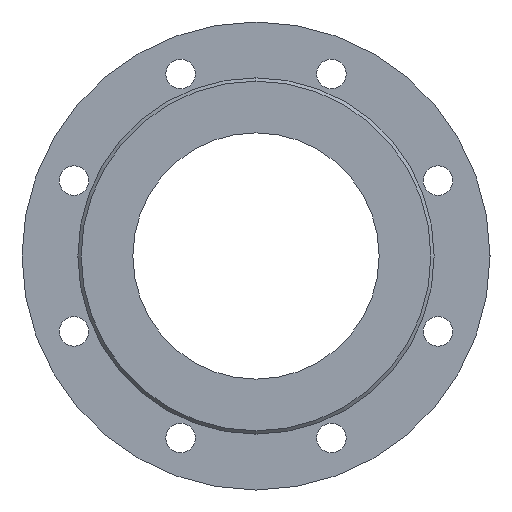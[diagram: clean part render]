
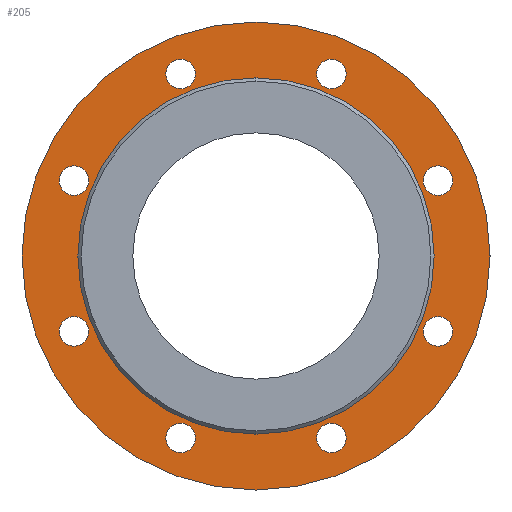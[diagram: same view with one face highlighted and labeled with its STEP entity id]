
A CAD part, left-side view. The second image highlights one B-rep face of the part: STEP entity #205.
In plain terms, the highlighted planar face has unit normal (-1, 0, 0).
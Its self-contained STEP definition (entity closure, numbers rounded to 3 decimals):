
#205=ADVANCED_FACE('',(#423,#424,#425,#426,#427,#428,#429,#430,#431,#432),#433,.F.);
#423=FACE_BOUND('',#683,.T.);
#424=FACE_BOUND('',#684,.T.);
#425=FACE_BOUND('',#685,.T.);
#426=FACE_BOUND('',#686,.T.);
#427=FACE_BOUND('',#687,.T.);
#428=FACE_BOUND('',#688,.T.);
#429=FACE_BOUND('',#689,.T.);
#430=FACE_BOUND('',#690,.T.);
#431=FACE_BOUND('',#691,.T.);
#432=FACE_OUTER_BOUND('',#692,.T.);
#433=PLANE('',#693);
#683=EDGE_LOOP('',(#1103,#1104));
#684=EDGE_LOOP('',(#1105,#1106));
#685=EDGE_LOOP('',(#1107,#1108));
#686=EDGE_LOOP('',(#1109,#1110));
#687=EDGE_LOOP('',(#1111,#1112));
#688=EDGE_LOOP('',(#1113,#1114));
#689=EDGE_LOOP('',(#1115,#1116));
#690=EDGE_LOOP('',(#1117,#1118));
#691=EDGE_LOOP('',(#1119,#1120));
#692=EDGE_LOOP('',(#1121,#1122));
#693=AXIS2_PLACEMENT_3D('',#1123,#1124,#1125);
#1103=ORIENTED_EDGE('',*,*,#1437,.T.);
#1104=ORIENTED_EDGE('',*,*,#1452,.T.);
#1105=ORIENTED_EDGE('',*,*,#1378,.T.);
#1106=ORIENTED_EDGE('',*,*,#1368,.T.);
#1107=ORIENTED_EDGE('',*,*,#1513,.T.);
#1108=ORIENTED_EDGE('',*,*,#1487,.T.);
#1109=ORIENTED_EDGE('',*,*,#1360,.T.);
#1110=ORIENTED_EDGE('',*,*,#1508,.T.);
#1111=ORIENTED_EDGE('',*,*,#1391,.T.);
#1112=ORIENTED_EDGE('',*,*,#1514,.T.);
#1113=ORIENTED_EDGE('',*,*,#1444,.T.);
#1114=ORIENTED_EDGE('',*,*,#1511,.T.);
#1115=ORIENTED_EDGE('',*,*,#1430,.T.);
#1116=ORIENTED_EDGE('',*,*,#1515,.T.);
#1117=ORIENTED_EDGE('',*,*,#1516,.T.);
#1118=ORIENTED_EDGE('',*,*,#1384,.T.);
#1119=ORIENTED_EDGE('',*,*,#1425,.T.);
#1120=ORIENTED_EDGE('',*,*,#1517,.T.);
#1121=ORIENTED_EDGE('',*,*,#1447,.F.);
#1122=ORIENTED_EDGE('',*,*,#1498,.F.);
#1123=CARTESIAN_POINT('',(2.0,0.0,0.));
#1124=DIRECTION('',(1.0,0.0,0.));
#1125=DIRECTION('',(0.,0.0,-1.0));
#1360=EDGE_CURVE('',#1585,#1589,#1591,.T.);
#1368=EDGE_CURVE('',#1605,#1603,#1606,.T.);
#1378=EDGE_CURVE('',#1603,#1605,#1621,.T.);
#1384=EDGE_CURVE('',#1629,#1627,#1630,.T.);
#1391=EDGE_CURVE('',#1636,#1640,#1642,.T.);
#1425=EDGE_CURVE('',#1690,#1694,#1696,.T.);
#1430=EDGE_CURVE('',#1699,#1703,#1705,.T.);
#1437=EDGE_CURVE('',#1716,#1714,#1717,.T.);
#1444=EDGE_CURVE('',#1723,#1727,#1729,.T.);
#1447=EDGE_CURVE('',#1731,#1734,#1735,.T.);
#1452=EDGE_CURVE('',#1714,#1716,#1741,.T.);
#1487=EDGE_CURVE('',#1798,#1796,#1799,.T.);
#1498=EDGE_CURVE('',#1734,#1731,#1813,.T.);
#1508=EDGE_CURVE('',#1589,#1585,#1823,.T.);
#1511=EDGE_CURVE('',#1727,#1723,#1826,.T.);
#1513=EDGE_CURVE('',#1796,#1798,#1828,.T.);
#1514=EDGE_CURVE('',#1640,#1636,#1829,.T.);
#1515=EDGE_CURVE('',#1703,#1699,#1830,.T.);
#1516=EDGE_CURVE('',#1627,#1629,#1831,.T.);
#1517=EDGE_CURVE('',#1694,#1690,#1832,.T.);
#1585=VERTEX_POINT('',#1914);
#1589=VERTEX_POINT('',#1919);
#1591=CIRCLE('',#1922,9.0);
#1603=VERTEX_POINT('',#1936);
#1605=VERTEX_POINT('',#1939);
#1606=CIRCLE('',#1940,9.0);
#1621=CIRCLE('',#1956,9.0);
#1627=VERTEX_POINT('',#1962);
#1629=VERTEX_POINT('',#1965);
#1630=CIRCLE('',#1966,9.0);
#1636=VERTEX_POINT('',#1973);
#1640=VERTEX_POINT('',#1978);
#1642=CIRCLE('',#1981,9.0);
#1690=VERTEX_POINT('',#2037);
#1694=VERTEX_POINT('',#2042);
#1696=CIRCLE('',#2045,9.0);
#1699=VERTEX_POINT('',#2048);
#1703=VERTEX_POINT('',#2053);
#1705=CIRCLE('',#2056,9.0);
#1714=VERTEX_POINT('',#2067);
#1716=VERTEX_POINT('',#2070);
#1717=CIRCLE('',#2071,75.0);
#1723=VERTEX_POINT('',#2078);
#1727=VERTEX_POINT('',#2083);
#1729=CIRCLE('',#2086,9.0);
#1731=VERTEX_POINT('',#2088);
#1734=VERTEX_POINT('',#2092);
#1735=CIRCLE('',#2093,142.5);
#1741=CIRCLE('',#2100,75.0);
#1796=VERTEX_POINT('',#2159);
#1798=VERTEX_POINT('',#2162);
#1799=CIRCLE('',#2163,9.0);
#1813=CIRCLE('',#2180,142.5);
#1823=CIRCLE('',#2190,9.0);
#1826=CIRCLE('',#2193,9.0);
#1828=CIRCLE('',#2195,9.0);
#1829=CIRCLE('',#2196,9.0);
#1830=CIRCLE('',#2197,9.0);
#1831=CIRCLE('',#2198,9.0);
#1832=CIRCLE('',#2199,9.0);
#1914=CARTESIAN_POINT('',(2.0,-110.866,36.922));
#1919=CARTESIAN_POINT('',(2.0,-110.866,54.922));
#1922=AXIS2_PLACEMENT_3D('',#2293,#2294,#2295);
#1936=CARTESIAN_POINT('',(2.0,110.866,-54.922));
#1939=CARTESIAN_POINT('',(2.0,110.866,-36.922));
#1940=AXIS2_PLACEMENT_3D('',#2305,#2306,#2307);
#1956=AXIS2_PLACEMENT_3D('',#2327,#2328,#2329);
#1962=CARTESIAN_POINT('',(2.0,-110.866,-54.922));
#1965=CARTESIAN_POINT('',(2.0,-110.866,-36.922));
#1966=AXIS2_PLACEMENT_3D('',#2337,#2338,#2339);
#1973=CARTESIAN_POINT('',(2.0,-45.922,101.866));
#1978=CARTESIAN_POINT('',(2.,-45.922,119.866));
#1981=AXIS2_PLACEMENT_3D('',#2349,#2350,#2351);
#2037=CARTESIAN_POINT('',(2.0,-45.922,-119.866));
#2042=CARTESIAN_POINT('',(2.,-45.922,-101.866));
#2045=AXIS2_PLACEMENT_3D('',#2401,#2402,#2403);
#2048=CARTESIAN_POINT('',(2.0,45.922,101.866));
#2053=CARTESIAN_POINT('',(2.,45.922,119.866));
#2056=AXIS2_PLACEMENT_3D('',#2409,#2410,#2411);
#2067=CARTESIAN_POINT('',(2.0,0.,-75.0));
#2070=CARTESIAN_POINT('',(2.0,0.,75.0));
#2071=AXIS2_PLACEMENT_3D('',#2418,#2419,#2420);
#2078=CARTESIAN_POINT('',(2.0,110.866,36.922));
#2083=CARTESIAN_POINT('',(2.0,110.866,54.922));
#2086=AXIS2_PLACEMENT_3D('',#2430,#2431,#2432);
#2088=CARTESIAN_POINT('',(2.,0.0,-142.5));
#2092=CARTESIAN_POINT('',(2.,0.,142.5));
#2093=AXIS2_PLACEMENT_3D('',#2434,#2435,#2436);
#2100=AXIS2_PLACEMENT_3D('',#2444,#2445,#2446);
#2159=CARTESIAN_POINT('',(2.0,45.922,-119.866));
#2162=CARTESIAN_POINT('',(2.,45.922,-101.866));
#2163=AXIS2_PLACEMENT_3D('',#2518,#2519,#2520);
#2180=AXIS2_PLACEMENT_3D('',#2536,#2537,#2538);
#2190=AXIS2_PLACEMENT_3D('',#2560,#2561,#2562);
#2193=AXIS2_PLACEMENT_3D('',#2563,#2564,#2565);
#2195=AXIS2_PLACEMENT_3D('',#2566,#2567,#2568);
#2196=AXIS2_PLACEMENT_3D('',#2569,#2570,#2571);
#2197=AXIS2_PLACEMENT_3D('',#2572,#2573,#2574);
#2198=AXIS2_PLACEMENT_3D('',#2575,#2576,#2577);
#2199=AXIS2_PLACEMENT_3D('',#2578,#2579,#2580);
#2293=CARTESIAN_POINT('',(2.0,-110.866,45.922));
#2294=DIRECTION('',(1.0,0.0,0.));
#2295=DIRECTION('',(0.,0.0,-1.0));
#2305=CARTESIAN_POINT('',(2.0,110.866,-45.922));
#2306=DIRECTION('',(1.0,0.0,0.));
#2307=DIRECTION('',(0.,0.0,-1.0));
#2327=CARTESIAN_POINT('',(2.0,110.866,-45.922));
#2328=DIRECTION('',(1.0,0.0,0.));
#2329=DIRECTION('',(0.,0.0,-1.0));
#2337=CARTESIAN_POINT('',(2.0,-110.866,-45.922));
#2338=DIRECTION('',(1.0,0.0,0.));
#2339=DIRECTION('',(0.,0.0,-1.0));
#2349=CARTESIAN_POINT('',(2.,-45.922,110.866));
#2350=DIRECTION('',(1.0,0.0,0.));
#2351=DIRECTION('',(0.,0.0,-1.0));
#2401=CARTESIAN_POINT('',(2.,-45.922,-110.866));
#2402=DIRECTION('',(1.0,0.0,0.));
#2403=DIRECTION('',(0.,0.0,-1.0));
#2409=CARTESIAN_POINT('',(2.,45.922,110.866));
#2410=DIRECTION('',(1.0,0.0,0.));
#2411=DIRECTION('',(0.,0.0,-1.0));
#2418=CARTESIAN_POINT('',(2.0,0.0,0.));
#2419=DIRECTION('',(1.0,0.0,0.));
#2420=DIRECTION('',(0.,0.0,-1.0));
#2430=CARTESIAN_POINT('',(2.0,110.866,45.922));
#2431=DIRECTION('',(1.0,0.0,0.));
#2432=DIRECTION('',(0.,0.0,-1.0));
#2434=CARTESIAN_POINT('',(2.0,0.0,0.));
#2435=DIRECTION('',(1.0,0.0,0.));
#2436=DIRECTION('',(0.,0.0,-1.0));
#2444=CARTESIAN_POINT('',(2.0,0.0,0.));
#2445=DIRECTION('',(1.0,0.0,0.));
#2446=DIRECTION('',(0.,0.0,-1.0));
#2518=CARTESIAN_POINT('',(2.,45.922,-110.866));
#2519=DIRECTION('',(1.0,0.0,0.));
#2520=DIRECTION('',(0.,0.0,-1.0));
#2536=CARTESIAN_POINT('',(2.0,0.0,0.));
#2537=DIRECTION('',(1.0,0.0,0.));
#2538=DIRECTION('',(0.,0.0,-1.0));
#2560=CARTESIAN_POINT('',(2.0,-110.866,45.922));
#2561=DIRECTION('',(1.0,0.0,0.));
#2562=DIRECTION('',(0.,0.0,-1.0));
#2563=CARTESIAN_POINT('',(2.0,110.866,45.922));
#2564=DIRECTION('',(1.0,0.0,0.));
#2565=DIRECTION('',(0.,0.0,-1.0));
#2566=CARTESIAN_POINT('',(2.,45.922,-110.866));
#2567=DIRECTION('',(1.0,0.0,0.));
#2568=DIRECTION('',(0.,0.0,-1.0));
#2569=CARTESIAN_POINT('',(2.,-45.922,110.866));
#2570=DIRECTION('',(1.0,0.0,0.));
#2571=DIRECTION('',(0.,0.0,-1.0));
#2572=CARTESIAN_POINT('',(2.,45.922,110.866));
#2573=DIRECTION('',(1.0,0.0,0.));
#2574=DIRECTION('',(0.,0.0,-1.0));
#2575=CARTESIAN_POINT('',(2.0,-110.866,-45.922));
#2576=DIRECTION('',(1.0,0.0,0.));
#2577=DIRECTION('',(0.,0.0,-1.0));
#2578=CARTESIAN_POINT('',(2.,-45.922,-110.866));
#2579=DIRECTION('',(1.0,0.0,0.));
#2580=DIRECTION('',(0.,0.0,-1.0));
